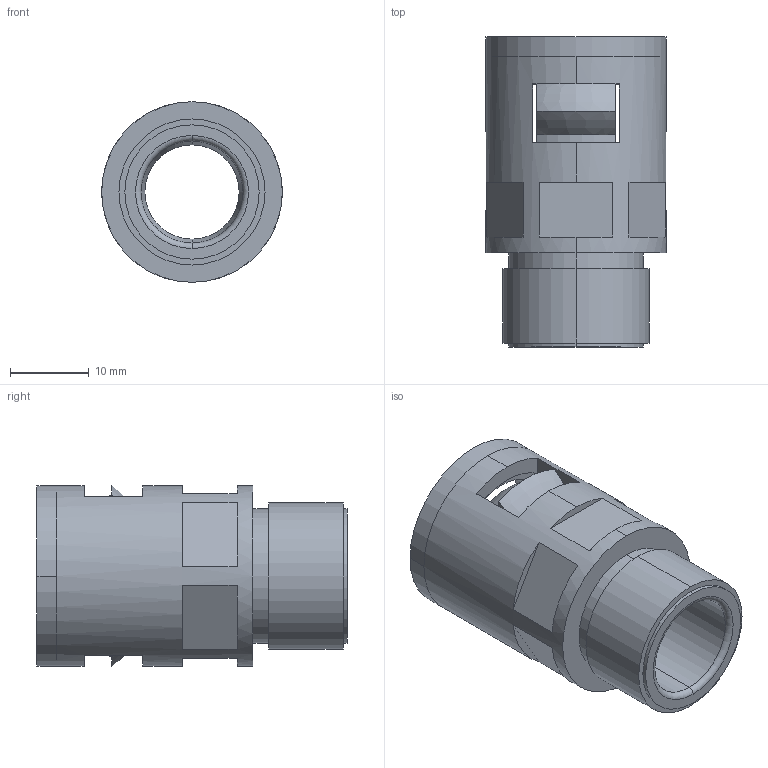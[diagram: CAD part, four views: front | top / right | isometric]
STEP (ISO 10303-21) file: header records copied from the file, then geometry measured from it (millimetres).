
FILE_DESCRIPTION (( 'STEP AP203' ), '1' );
FILE_NAME ('WQG-P11-AD15.8.STEP', '2015-12-23T08:00:53', ( 'User' ), ( 'Microsoft' ), 'SwSTEP 2.0', 'SolidWorks 2010', '' );
FILE_SCHEMA (( 'CONFIG_CONTROL_DESIGN' ));
Length unit declared in the file: millimetre
Products named in the file (4): WQG-P11-AD15.8; NSK-AD15.8; GFD-AD15.8; WQG-P11-AD15.8-01
Assembly tree (3 placements, depth 2):
  WQG-P11-AD15.8
    GFD-AD15.8
    NSK-AD15.8
    WQG-P11-AD15.8-01
Bounding box: 23 x 39.5 x 23 mm (x, y, z)
Volume: 6820.4 mm3; surface area: 8526.9 mm2
Topology: 3 solids, 3 shells, 158 faces, 382 edges, 236 vertices
Faces by surface type: plane 66, cone 46, cylinder 26, torus 20
Entity records: 5136 total; most frequent: DIRECTION 886, CARTESIAN_POINT 878, ORIENTED_EDGE 764, EDGE_CURVE 382, AXIS2_PLACEMENT_3D 356, VERTEX_POINT 236, CIRCLE 192, EDGE_LOOP 178
